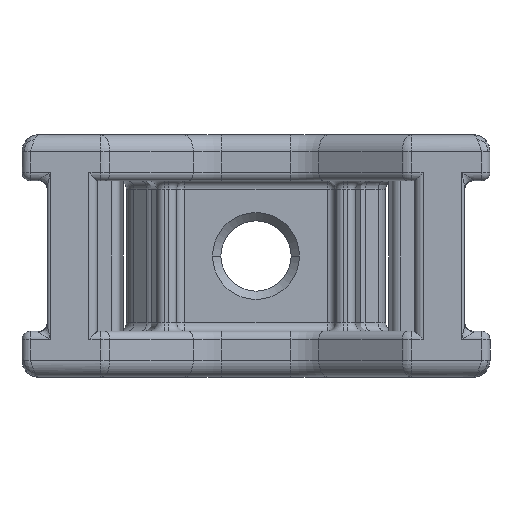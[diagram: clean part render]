
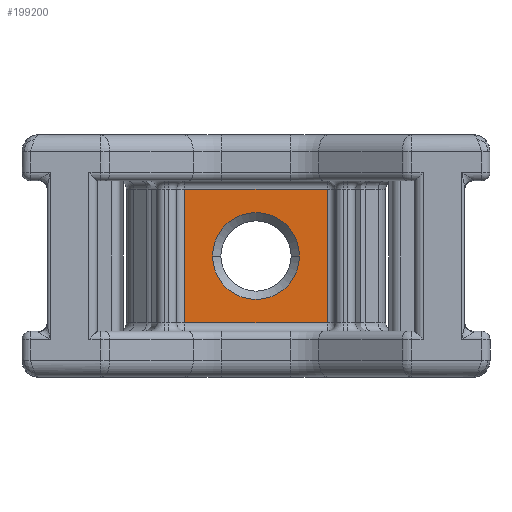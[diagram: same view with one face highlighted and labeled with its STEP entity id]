
A CAD part, front view. The second image highlights one B-rep face of the part: STEP entity #199200.
In plain terms, the highlighted planar face has unit normal (0, -1, 0).
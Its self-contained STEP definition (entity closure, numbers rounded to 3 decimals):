
#57840=CARTESIAN_POINT('',(30.187,-8.508,-0.5));
#57850=VERTEX_POINT('',#57840);
#57880=CARTESIAN_POINT('',(0.,-8.508,-0.5));
#57890=DIRECTION('',(1.,0.,0.));
#57900=VECTOR('',#57890,1.);
#57910=LINE('',#57880,#57900);
#57920=CARTESIAN_POINT('',(21.687,-8.508,-0.5));
#57930=VERTEX_POINT('',#57920);
#57940=EDGE_CURVE('',#57930,#57850,#57910,.T.);
#196190=CARTESIAN_POINT('',(30.187,-8.508,-8.5));
#196200=VERTEX_POINT('',#196190);
#196360=CARTESIAN_POINT('',(21.687,-8.508,-8.5));
#196370=VERTEX_POINT('',#196360);
#196400=CARTESIAN_POINT('',(0.,-8.508,-8.5));
#196410=DIRECTION('',(1.,0.,0.));
#196420=VECTOR('',#196410,1.);
#196430=LINE('',#196400,#196420);
#196440=EDGE_CURVE('',#196370,#196200,#196430,.T.);
#198700=CARTESIAN_POINT('',(28.537,-8.508,-4.5));
#198710=VERTEX_POINT('',#198700);
#198800=CARTESIAN_POINT('',(23.337,-8.508,-4.5));
#198810=VERTEX_POINT('',#198800);
#198840=CARTESIAN_POINT('',(25.937,-8.508,-4.5));
#198850=DIRECTION('',(0.,-1.,0.));
#198860=DIRECTION('',(-1.,0.,0.));
#198870=AXIS2_PLACEMENT_3D('',#198840,#198850,#198860);
#198880=CIRCLE('',#198870,2.6);
#198890=EDGE_CURVE('',#198710,#198810,#198880,.T.);
#198940=CARTESIAN_POINT('',(30.187,-8.508,-9.));
#198950=DIRECTION('',(-0.,-1.,-0.));
#198960=DIRECTION('',(-1.,0.,0.));
#198970=AXIS2_PLACEMENT_3D('',#198940,#198950,#198960);
#198980=PLANE('',#198970);
#198990=EDGE_CURVE('',#198810,#198710,#198880,.T.);
#199000=ORIENTED_EDGE('',*,*,#198990,.F.);
#199010=ORIENTED_EDGE('',*,*,#198890,.F.);
#199020=EDGE_LOOP('',(#199010,#199000));
#199030=FACE_BOUND('',#199020,.T.);
#199040=ORIENTED_EDGE('',*,*,#57940,.F.);
#199050=CARTESIAN_POINT('',(30.187,-8.508,0.));
#199060=DIRECTION('',(0.,0.,1.));
#199070=VECTOR('',#199060,1.);
#199080=LINE('',#199050,#199070);
#199090=EDGE_CURVE('',#196200,#57850,#199080,.T.);
#199100=ORIENTED_EDGE('',*,*,#199090,.T.);
#199110=ORIENTED_EDGE('',*,*,#196440,.T.);
#199120=CARTESIAN_POINT('',(21.687,-8.508,-9.));
#199130=DIRECTION('',(0.,0.,1.));
#199140=VECTOR('',#199130,1.);
#199150=LINE('',#199120,#199140);
#199160=EDGE_CURVE('',#196370,#57930,#199150,.T.);
#199170=ORIENTED_EDGE('',*,*,#199160,.F.);
#199180=EDGE_LOOP('',(#199170,#199110,#199100,#199040));
#199190=FACE_OUTER_BOUND('',#199180,.T.);
#199200=ADVANCED_FACE('',(#199030,#199190),#198980,.T.);
